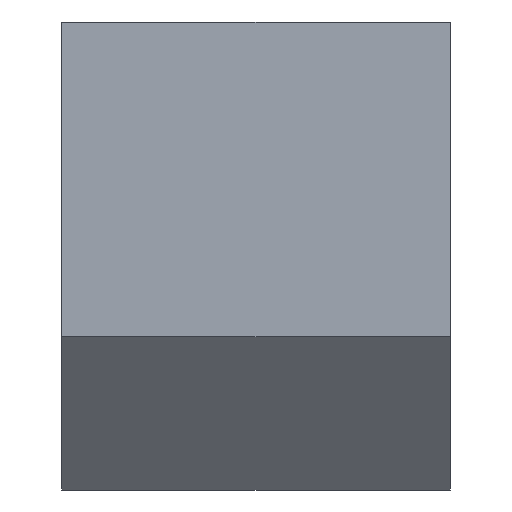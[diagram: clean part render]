
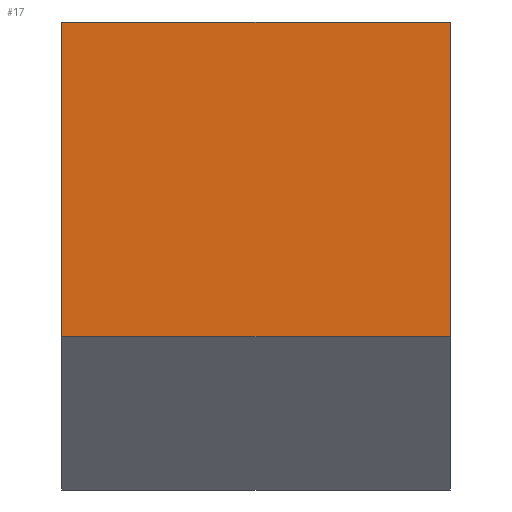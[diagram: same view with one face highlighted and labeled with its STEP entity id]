
A CAD part, front view. The second image highlights one B-rep face of the part: STEP entity #17.
In plain terms, the highlighted planar face has unit normal (0, -1, 0).
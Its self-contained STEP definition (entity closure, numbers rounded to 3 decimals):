
#17 = ADVANCED_FACE('',(#18),#32,.F.);
#18 = FACE_BOUND('',#19,.F.);
#19 = EDGE_LOOP('',(#20,#55,#83,#111));
#20 = ORIENTED_EDGE('',*,*,#21,.T.);
#21 = EDGE_CURVE('',#22,#24,#26,.T.);
#22 = VERTEX_POINT('',#23);
#23 = CARTESIAN_POINT('',(15.5,-40.7,-7.8));
#24 = VERTEX_POINT('',#25);
#25 = CARTESIAN_POINT('',(18.8,-40.7,-7.8));
#26 = SURFACE_CURVE('',#27,(#31,#43),.PCURVE_S1.);
#27 = LINE('',#28,#29);
#28 = CARTESIAN_POINT('',(15.5,-40.7,-7.8));
#29 = VECTOR('',#30,1.);
#30 = DIRECTION('',(1.,0.,0.));
#31 = PCURVE('',#32,#37);
#32 = PLANE('',#33);
#33 = AXIS2_PLACEMENT_3D('',#34,#35,#36);
#34 = CARTESIAN_POINT('',(15.5,-40.7,-7.8));
#35 = DIRECTION('',(-0.,1.,0.));
#36 = DIRECTION('',(0.,0.,-1.));
#37 = DEFINITIONAL_REPRESENTATION('',(#38),#42);
#38 = LINE('',#39,#40);
#39 = CARTESIAN_POINT('',(0.,0.));
#40 = VECTOR('',#41,1.);
#41 = DIRECTION('',(0.,-1.));
#42 = ( GEOMETRIC_REPRESENTATION_CONTEXT(2) 
PARAMETRIC_REPRESENTATION_CONTEXT() REPRESENTATION_CONTEXT('2D SPACE',''
  ) );
#43 = PCURVE('',#44,#49);
#44 = PLANE('',#45);
#45 = AXIS2_PLACEMENT_3D('',#46,#47,#48);
#46 = CARTESIAN_POINT('',(15.5,-40.6,-7.8));
#47 = DIRECTION('',(0.,0.,-1.));
#48 = DIRECTION('',(0.,-1.,0.));
#49 = DEFINITIONAL_REPRESENTATION('',(#50),#54);
#50 = LINE('',#51,#52);
#51 = CARTESIAN_POINT('',(0.1,0.));
#52 = VECTOR('',#53,1.);
#53 = DIRECTION('',(0.,-1.));
#54 = ( GEOMETRIC_REPRESENTATION_CONTEXT(2) 
PARAMETRIC_REPRESENTATION_CONTEXT() REPRESENTATION_CONTEXT('2D SPACE',''
  ) );
#55 = ORIENTED_EDGE('',*,*,#56,.T.);
#56 = EDGE_CURVE('',#24,#57,#59,.T.);
#57 = VERTEX_POINT('',#58);
#58 = CARTESIAN_POINT('',(18.8,-40.7,-10.475));
#59 = SURFACE_CURVE('',#60,(#64,#71),.PCURVE_S1.);
#60 = LINE('',#61,#62);
#61 = CARTESIAN_POINT('',(18.8,-40.7,-7.8));
#62 = VECTOR('',#63,1.);
#63 = DIRECTION('',(0.,0.,-1.));
#64 = PCURVE('',#32,#65);
#65 = DEFINITIONAL_REPRESENTATION('',(#66),#70);
#66 = LINE('',#67,#68);
#67 = CARTESIAN_POINT('',(0.,-3.3));
#68 = VECTOR('',#69,1.);
#69 = DIRECTION('',(1.,0.));
#70 = ( GEOMETRIC_REPRESENTATION_CONTEXT(2) 
PARAMETRIC_REPRESENTATION_CONTEXT() REPRESENTATION_CONTEXT('2D SPACE',''
  ) );
#71 = PCURVE('',#72,#77);
#72 = PLANE('',#73);
#73 = AXIS2_PLACEMENT_3D('',#74,#75,#76);
#74 = CARTESIAN_POINT('',(18.8,-34.504,-10.828));
#75 = DIRECTION('',(1.,0.,0.));
#76 = DIRECTION('',(-0.,0.,1.));
#77 = DEFINITIONAL_REPRESENTATION('',(#78),#82);
#78 = LINE('',#79,#80);
#79 = CARTESIAN_POINT('',(3.028,6.196));
#80 = VECTOR('',#81,1.);
#81 = DIRECTION('',(-1.,0.));
#82 = ( GEOMETRIC_REPRESENTATION_CONTEXT(2) 
PARAMETRIC_REPRESENTATION_CONTEXT() REPRESENTATION_CONTEXT('2D SPACE',''
  ) );
#83 = ORIENTED_EDGE('',*,*,#84,.F.);
#84 = EDGE_CURVE('',#85,#57,#87,.T.);
#85 = VERTEX_POINT('',#86);
#86 = CARTESIAN_POINT('',(15.5,-40.7,-10.475));
#87 = SURFACE_CURVE('',#88,(#92,#99),.PCURVE_S1.);
#88 = LINE('',#89,#90);
#89 = CARTESIAN_POINT('',(15.5,-40.7,-10.475));
#90 = VECTOR('',#91,1.);
#91 = DIRECTION('',(1.,0.,0.));
#92 = PCURVE('',#32,#93);
#93 = DEFINITIONAL_REPRESENTATION('',(#94),#98);
#94 = LINE('',#95,#96);
#95 = CARTESIAN_POINT('',(2.675,0.));
#96 = VECTOR('',#97,1.);
#97 = DIRECTION('',(0.,-1.));
#98 = ( GEOMETRIC_REPRESENTATION_CONTEXT(2) 
PARAMETRIC_REPRESENTATION_CONTEXT() REPRESENTATION_CONTEXT('2D SPACE',''
  ) );
#99 = PCURVE('',#100,#105);
#100 = PLANE('',#101);
#101 = AXIS2_PLACEMENT_3D('',#102,#103,#104);
#102 = CARTESIAN_POINT('',(15.5,-40.7,-10.475));
#103 = DIRECTION('',(0.,0.,1.));
#104 = DIRECTION('',(0.,1.,0.));
#105 = DEFINITIONAL_REPRESENTATION('',(#106),#110);
#106 = LINE('',#107,#108);
#107 = CARTESIAN_POINT('',(0.,0.));
#108 = VECTOR('',#109,1.);
#109 = DIRECTION('',(0.,-1.));
#110 = ( GEOMETRIC_REPRESENTATION_CONTEXT(2) 
PARAMETRIC_REPRESENTATION_CONTEXT() REPRESENTATION_CONTEXT('2D SPACE',''
  ) );
#111 = ORIENTED_EDGE('',*,*,#112,.F.);
#112 = EDGE_CURVE('',#22,#85,#113,.T.);
#113 = SURFACE_CURVE('',#114,(#118,#125),.PCURVE_S1.);
#114 = LINE('',#115,#116);
#115 = CARTESIAN_POINT('',(15.5,-40.7,-7.8));
#116 = VECTOR('',#117,1.);
#117 = DIRECTION('',(0.,0.,-1.));
#118 = PCURVE('',#32,#119);
#119 = DEFINITIONAL_REPRESENTATION('',(#120),#124);
#120 = LINE('',#121,#122);
#121 = CARTESIAN_POINT('',(0.,0.));
#122 = VECTOR('',#123,1.);
#123 = DIRECTION('',(1.,0.));
#124 = ( GEOMETRIC_REPRESENTATION_CONTEXT(2) 
PARAMETRIC_REPRESENTATION_CONTEXT() REPRESENTATION_CONTEXT('2D SPACE',''
  ) );
#125 = PCURVE('',#126,#131);
#126 = PLANE('',#127);
#127 = AXIS2_PLACEMENT_3D('',#128,#129,#130);
#128 = CARTESIAN_POINT('',(15.5,-34.504,-10.828));
#129 = DIRECTION('',(1.,0.,0.));
#130 = DIRECTION('',(-0.,0.,1.));
#131 = DEFINITIONAL_REPRESENTATION('',(#132),#136);
#132 = LINE('',#133,#134);
#133 = CARTESIAN_POINT('',(3.028,6.196));
#134 = VECTOR('',#135,1.);
#135 = DIRECTION('',(-1.,0.));
#136 = ( GEOMETRIC_REPRESENTATION_CONTEXT(2) 
PARAMETRIC_REPRESENTATION_CONTEXT() REPRESENTATION_CONTEXT('2D SPACE',''
  ) );
